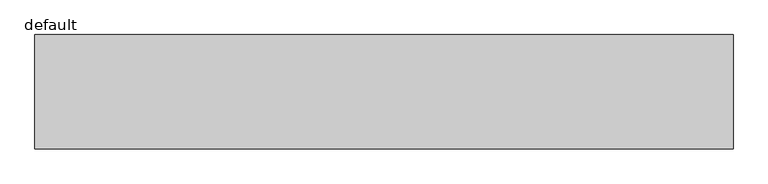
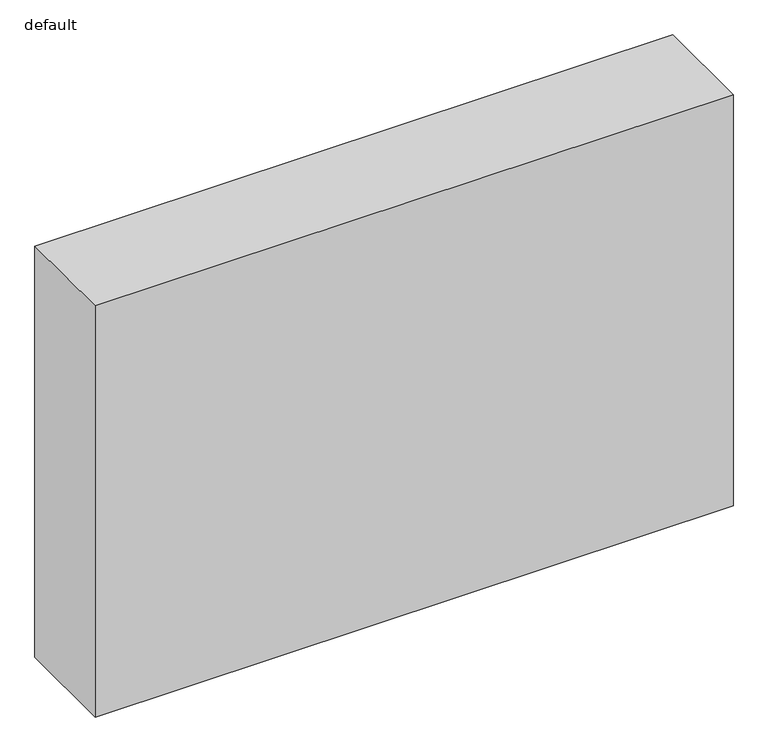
"""IFC4 building model written with IfcOpenShell, lengths in millimetres: furniture geometry, Fu_шкаф встроенный_LEG : default."""

from ifc_helpers import new_model, si_unit, origin, origin_with_axes, place, context, project, spatial, polyline, outline, extrude, source, transform, mapped, element, save


def default_7911ea91(model_context):
    return source(origin(), model_context, "Body", "SweptSolid", [
        extrude(outline(polyline([(3670.0, 0.0), (0.0, 0.0), (0.0, 600.0), (3670.0, 600.0), (3670.0, 0.0)])), origin_with_axes(), (0.0, 0.0, 1.0), 2500.0),
    ])


if __name__ == "__main__":
    model = new_model("IFC4")
    model_context = context("Model", 3, world=origin())
    ifc_project = project(units=[si_unit("LENGTHUNIT", "METRE", prefix="MILLI")], contexts=[model_context])
    site = spatial("IfcSite", under=ifc_project)
    building = spatial("IfcBuilding", under=site)
    placement = place(None, origin())
    default_shape = default_7911ea91(model_context)
    element("IfcFurniture", 1, ObjectType="Fu_шкаф встроенный_LEG : default", at=placement, inside=building, context=model_context, shape_type="MappedRepresentation", body=[
        mapped(default_shape, transform((0.0, 0.0, 0.0), x_axis=(1.0, 0.0, 0.0), y_axis=(0.0, 1.0, 0.0), z_axis=(0.0, 0.0, 1.0))),
    ])
    save(model, "model.ifc")
